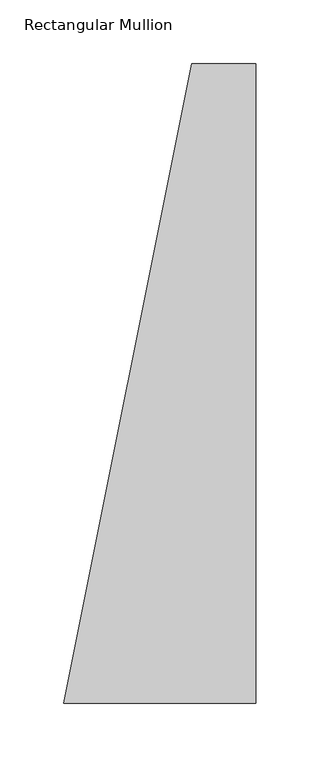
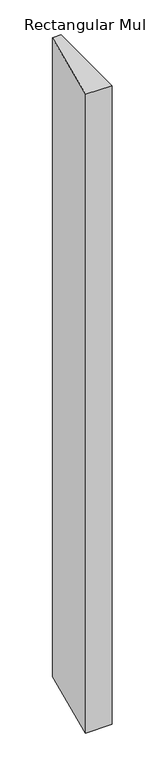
"""IFC4 building model written with IfcOpenShell, lengths in millimetres: member geometry, Rectangular Mullion : 500(350+150)x150x50mm."""

import ifcopenshell
import ifcopenshell.guid

model = None  # the IFC model being written
_history = None  # IfcOwnerHistory: only IFC2X3 demands one
_inside = {}  # id of a spatial element -> (the spatial element, [elements in it])
_under = {}  # id of a project, library or spatial element -> (it, [spatial elements below it])
_declared = {}  # id of a project -> (the project, [libraries it declares])
_typed = {}  # id of a type object -> (the type object, [elements of that type])
_made_of = {}  # id of a material, layer set ... -> (it, [elements and type objects made of it])


def new_model(schema):
    """Start an empty IFC model of exactly this schema.

    Asked for "IFC4X3", IfcOpenShell would pick the latest addendum, in which some entities
    have other attributes; the version numbers below select the first issue.
    IFC2X3 requires an IfcOwnerHistory on every rooted entity: one is made here for all.
    """
    global model, _history
    if schema == "IFC4X3":
        model = ifcopenshell.file(schema_version=(4, 3, 0, 0))
    else:
        model = ifcopenshell.file(schema=schema)
    _inside.clear()
    _under.clear()
    _declared.clear()
    _typed.clear()
    _made_of.clear()
    _history = None
    if model.schema == "IFC2X3":
        org = make("IfcOrganization", Name="unknown")
        user = make(
            "IfcPersonAndOrganization",
            ThePerson=make("IfcPerson", FamilyName="unknown"),
            TheOrganization=org,
        )
        app = make(
            "IfcApplication",
            ApplicationDeveloper=org,
            Version="unknown",
            ApplicationFullName="unknown",
            ApplicationIdentifier="unknown",
        )
        _history = make(
            "IfcOwnerHistory",
            OwningUser=user,
            OwningApplication=app,
            ChangeAction="ADDED",
            CreationDate=0,
        )
    return model


def make(cls, **values):
    """One entity of the class cls with the attributes given. An attribute that is None is left unset."""
    return model.create_entity(
        cls, **{name: value for name, value in values.items() if value is not None}
    )


def rooted(cls, **values):
    """An entity with a GlobalId (a new one), such as an element, a storey or a relation."""
    return make(cls, GlobalId=ifcopenshell.guid.new(), OwnerHistory=_history, **values)


def si_unit(unit_type, name, prefix=None):
    """IfcSIUnit, for example si_unit("LENGTHUNIT", "METRE", prefix="MILLI")."""
    return make("IfcSIUnit", UnitType=unit_type, Prefix=prefix, Name=name)


def assignment(units):
    """IfcUnitAssignment: the units of a project."""
    return None if units is None else make("IfcUnitAssignment", Units=units)


def point(xyz):
    """IfcCartesianPoint."""
    return None if xyz is None else make("IfcCartesianPoint", Coordinates=xyz)


def direction(xyz):
    """IfcDirection."""
    return None if xyz is None else make("IfcDirection", DirectionRatios=xyz)


def frame(location, z_axis=None, x_axis=None):
    """IfcAxis2Placement3D, a coordinate frame: its origin and axes. An axis left out is left unset."""
    return make(
        "IfcAxis2Placement3D",
        Location=point(location),
        Axis=direction(z_axis),
        RefDirection=direction(x_axis),
    )


def origin():
    """The frame at (0, 0, 0) with its axes left unset."""
    return frame((0.0, 0.0, 0.0))


def place(relative_to, where):
    """IfcLocalPlacement: puts the frame where relative to a parent placement (None: the world)."""
    return make(
        "IfcLocalPlacement", PlacementRelTo=relative_to, RelativePlacement=where
    )


def context(
    kind, dimensions, precision=None, world=None, true_north=None, identifier=None
):
    """IfcGeometricRepresentationContext, for example the 3D "Model" context."""
    return make(
        "IfcGeometricRepresentationContext",
        ContextIdentifier=identifier,
        ContextType=kind,
        CoordinateSpaceDimension=dimensions,
        Precision=precision,
        WorldCoordinateSystem=world,
        TrueNorth=true_north,
    )


def project(units=None, contexts=None):
    """IfcProject with its units and contexts."""
    return rooted(
        "IfcProject",
        Name="project",
        RepresentationContexts=contexts,
        UnitsInContext=assignment(units),
    )


def spatial(cls, under=None, at=None, **own):
    """A site, building, storey or space (cls), placed at a placement, below another one or the project."""
    s = rooted(cls, ObjectPlacement=at, **own)
    if under is not None:
        _under.setdefault(under.id(), (under, []))[1].append(s)
    return s


def polyline(points):
    """IfcPolyline through the points."""
    return make("IfcPolyline", Points=[point(p) for p in points])


def outline(outer, holes=None, kind="AREA"):
    """IfcArbitraryClosedProfileDef: a profile drawn as a closed curve; with holes, ...WithVoids."""
    if holes is None:
        return make("IfcArbitraryClosedProfileDef", ProfileType=kind, OuterCurve=outer)
    return make(
        "IfcArbitraryProfileDefWithVoids",
        ProfileType=kind,
        OuterCurve=outer,
        InnerCurves=holes,
    )


def extrude(swept, where, along, depth):
    """IfcExtrudedAreaSolid: the profile swept, set in the frame where, extruded along a direction by depth."""
    return make(
        "IfcExtrudedAreaSolid",
        SweptArea=swept,
        Position=where,
        ExtrudedDirection=direction(along),
        Depth=depth,
    )


def shape(context_of_items, identifier, shape_type, items):
    """IfcShapeRepresentation: the items that make up one representation, for example the "Body"."""
    return make(
        "IfcShapeRepresentation",
        ContextOfItems=context_of_items,
        RepresentationIdentifier=identifier,
        RepresentationType=shape_type,
        Items=items,
    )


def source(mapping_origin, context_of_items, identifier, shape_type, items):
    """IfcRepresentationMap: a shape defined once, which mapped items show again and again."""
    return make(
        "IfcRepresentationMap",
        MappingOrigin=mapping_origin,
        MappedRepresentation=shape(context_of_items, identifier, shape_type, items),
    )


def transform(
    local_origin,
    x_axis=None,
    y_axis=None,
    z_axis=None,
    scale=None,
    scale2=None,
    scale3=None,
    uniform=True,
):
    """IfcCartesianTransformationOperator3D, or its non-uniform kind. x_axis, y_axis, z_axis: its Axis1, 2, 3."""
    if uniform:
        return make(
            "IfcCartesianTransformationOperator3D",
            Axis1=direction(x_axis),
            Axis2=direction(y_axis),
            LocalOrigin=point(local_origin),
            Scale=scale,
            Axis3=direction(z_axis),
        )
    return make(
        "IfcCartesianTransformationOperator3DnonUniform",
        Axis1=direction(x_axis),
        Axis2=direction(y_axis),
        LocalOrigin=point(local_origin),
        Scale=scale,
        Axis3=direction(z_axis),
        Scale2=scale2,
        Scale3=scale3,
    )


def mapped(mapping_source, mapping_target):
    """IfcMappedItem: shows the shape of a source again, moved by a transform."""
    return make(
        "IfcMappedItem", MappingSource=mapping_source, MappingTarget=mapping_target
    )


def made_of(thing, what):
    """Note that an element or type object is made of a material, layer set ...; save() writes the relation."""
    if what is not None:
        _made_of.setdefault(what.id(), (what, []))[1].append(thing)
    return thing


def element(
    cls,
    number,
    at=None,
    inside=None,
    cuts=None,
    type_object=None,
    material=None,
    context=None,
    identifier="Body",
    shape_type=None,
    held_by="IfcProductDefinitionShape",
    body=None,
    shapes=None,
    **own,
):
    """One element of the class cls, such as IfcWall. Its Tag is "e" and its number.

    at: its placement. inside: the storey or other place that contains it. cuts: it is an
    opening in that element (IfcRelVoidsElement). A single representation is given by context,
    identifier, shape_type and body (its items); several are given by shapes. held_by: the class
    of the entity that holds the representations. save() writes the other relations.
    """
    e = rooted(cls, Tag="e%d" % number, ObjectPlacement=at, **own)
    if body is not None:
        shapes = [shape(context, identifier, shape_type, body)]
    if shapes is not None:
        e.Representation = make(held_by, Representations=shapes)
    if inside is not None:
        _inside.setdefault(inside.id(), (inside, []))[1].append(e)
    if cuts is not None:
        rooted(
            "IfcRelVoidsElement", RelatingBuildingElement=cuts, RelatedOpeningElement=e
        )
    if type_object is not None:
        _typed.setdefault(type_object.id(), (type_object, []))[1].append(e)
    return made_of(e, material)


def aggregate(whole, parts):
    """IfcRelAggregates: a whole, such as a stair, and the parts it consists of."""
    return rooted("IfcRelAggregates", RelatingObject=whole, RelatedObjects=parts)


def save(model, path):
    """Write the relations noted so far, then the file.

    IfcRelAggregates (storeys below a building ...), IfcRelContainedInSpatialStructure (elements
    in a storey), IfcRelDefinesByType, IfcRelAssociatesMaterial and IfcRelDeclares: one each for
    every whole, place, type object, material and project.
    """
    for whole, parts in _under.values():
        aggregate(whole, parts)
    for where, things in _inside.values():
        rooted(
            "IfcRelContainedInSpatialStructure",
            RelatedElements=things,
            RelatingStructure=where,
        )
    for kind, things in _typed.values():
        rooted("IfcRelDefinesByType", RelatedObjects=things, RelatingType=kind)
    for what, things in _made_of.values():
        rooted("IfcRelAssociatesMaterial", RelatedObjects=things, RelatingMaterial=what)
    for by, libraries in _declared.values():
        rooted("IfcRelDeclares", RelatingContext=by, RelatedDefinitions=libraries)
    model.write(path)


def rectangular_mullion_957993cb(model_context):
    return source(origin(), model_context, "Body", "SweptSolid", [
        extrude(outline(polyline([(0.0, 150.0), (0.0, -350.0), (-150.0, -350.0), (-50.0, 150.0), (0.0, 150.0)])), frame((0.0, 0.0, -3825.0), z_axis=(0.0, 0.0, 1.0), x_axis=(1.0, 0.0, 0.0)), (0.0, 0.0, 1.0), 3825.0),
    ])


if __name__ == "__main__":
    model = new_model("IFC4")
    model_context = context("Model", 3, world=origin())
    ifc_project = project(units=[si_unit("LENGTHUNIT", "METRE", prefix="MILLI")], contexts=[model_context])
    site = spatial("IfcSite", under=ifc_project)
    building = spatial("IfcBuilding", under=site)
    placement = place(None, origin())
    rectangular_mullion_shape = rectangular_mullion_957993cb(model_context)
    element("IfcMember", 1, ObjectType="Rectangular Mullion : 500(350+150)x150x50mm", at=placement, inside=building, context=model_context, shape_type="MappedRepresentation", body=[
        mapped(rectangular_mullion_shape, transform((0.0, 0.0, 0.0), x_axis=(1.0, 0.0, 0.0), y_axis=(0.0, 1.0, 0.0), z_axis=(0.0, 0.0, 1.0))),
    ])
    save(model, "model.ifc")
